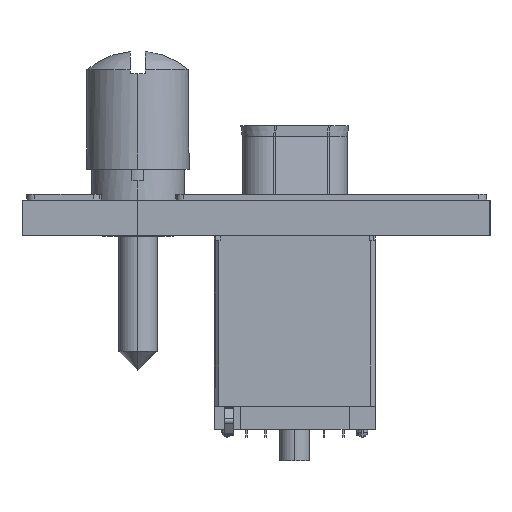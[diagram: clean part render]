
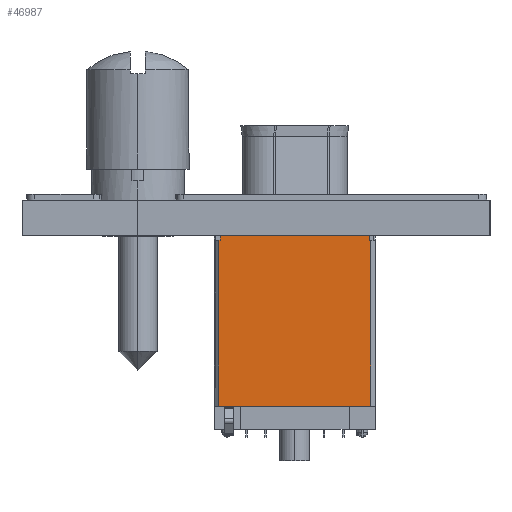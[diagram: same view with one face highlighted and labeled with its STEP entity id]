
A CAD part, left-side view. The second image highlights one B-rep face of the part: STEP entity #46987.
In plain terms, the highlighted planar face has unit normal (-1, 0, 0).
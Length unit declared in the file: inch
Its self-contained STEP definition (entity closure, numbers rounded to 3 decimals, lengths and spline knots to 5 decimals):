
#293=DIRECTION('',(0.,-1.,0.));
#294=VECTOR('',#293,0.37795);
#295=CARTESIAN_POINT('',(0.64435,0.68459,0.));
#296=LINE('',#295,#294);
#13475=DIRECTION('',(0.,0.,-1.));
#13476=VECTOR('',#13475,0.01181);
#13477=CARTESIAN_POINT('',(0.64435,0.30664,0.));
#13478=LINE('',#13477,#13476);
#13479=DIRECTION('',(0.,-1.,0.));
#13480=VECTOR('',#13479,0.00394);
#13481=CARTESIAN_POINT('',(0.64435,0.30664,-0.01181));
#13482=LINE('',#13481,#13480);
#13483=DIRECTION('',(0.,0.,-1.));
#13484=VECTOR('',#13483,0.42126);
#13485=CARTESIAN_POINT('',(0.64435,0.68853,-0.01181));
#13486=LINE('',#13485,#13484);
#13487=DIRECTION('',(0.,-1.,0.));
#13488=VECTOR('',#13487,0.00394);
#13489=CARTESIAN_POINT('',(0.64435,0.68853,-0.01181));
#13490=LINE('',#13489,#13488);
#13491=DIRECTION('',(0.,0.,-1.));
#13492=VECTOR('',#13491,0.01181);
#13493=CARTESIAN_POINT('',(0.64435,0.68459,0.));
#13494=LINE('',#13493,#13492);
#13915=DIRECTION('',(0.,-1.,0.));
#13916=VECTOR('',#13915,0.38583);
#13917=CARTESIAN_POINT('',(0.64435,0.68853,-0.43307));
#13918=LINE('',#13917,#13916);
#13975=DIRECTION('',(0.,0.,-1.));
#13976=VECTOR('',#13975,0.42126);
#13977=CARTESIAN_POINT('',(0.64435,0.3027,-0.01181));
#13978=LINE('',#13977,#13976);
#23675=CARTESIAN_POINT('',(0.64435,0.68853,-0.43307));
#23676=CARTESIAN_POINT('',(0.64435,0.3027,-0.43307));
#23677=VERTEX_POINT('',#23675);
#23678=VERTEX_POINT('',#23676);
#24219=CARTESIAN_POINT('',(0.64435,0.68853,-0.01181));
#24220=CARTESIAN_POINT('',(0.64435,0.68459,-0.01181));
#24221=VERTEX_POINT('',#24219);
#24222=VERTEX_POINT('',#24220);
#24223=CARTESIAN_POINT('',(0.64435,0.30664,-0.01181));
#24224=CARTESIAN_POINT('',(0.64435,0.3027,-0.01181));
#24225=VERTEX_POINT('',#24223);
#24226=VERTEX_POINT('',#24224);
#26523=CARTESIAN_POINT('',(0.64435,0.68459,0.));
#26524=CARTESIAN_POINT('',(0.64435,0.30664,0.));
#26525=VERTEX_POINT('',#26523);
#26526=VERTEX_POINT('',#26524);
#46965=CARTESIAN_POINT('',(0.64435,0.68853,0.));
#46966=DIRECTION('',(-1.,0.,0.));
#46967=DIRECTION('',(0.,-1.,0.));
#46968=AXIS2_PLACEMENT_3D('',#46965,#46966,#46967);
#46969=PLANE('',#46968);
#46970=ORIENTED_EDGE('',*,*,#27104,.T.);
#46972=ORIENTED_EDGE('',*,*,#46971,.T.);
#46974=ORIENTED_EDGE('',*,*,#46973,.T.);
#46976=ORIENTED_EDGE('',*,*,#46975,.T.);
#46978=ORIENTED_EDGE('',*,*,#46977,.F.);
#46980=ORIENTED_EDGE('',*,*,#46979,.F.);
#46982=ORIENTED_EDGE('',*,*,#46981,.T.);
#46984=ORIENTED_EDGE('',*,*,#46983,.F.);
#46985=EDGE_LOOP('',(#46970,#46972,#46974,#46976,#46978,#46980,#46982,#46984));
#46986=FACE_OUTER_BOUND('',#46985,.F.);
#46987=ADVANCED_FACE('',(#46986),#46969,.T.);
#27104=EDGE_CURVE('',#26525,#26526,#296,.T.);
#46971=EDGE_CURVE('',#26526,#24225,#13478,.T.);
#46973=EDGE_CURVE('',#24225,#24226,#13482,.T.);
#46975=EDGE_CURVE('',#24226,#23678,#13978,.T.);
#46977=EDGE_CURVE('',#23677,#23678,#13918,.T.);
#46979=EDGE_CURVE('',#24221,#23677,#13486,.T.);
#46981=EDGE_CURVE('',#24221,#24222,#13490,.T.);
#46983=EDGE_CURVE('',#26525,#24222,#13494,.T.);
